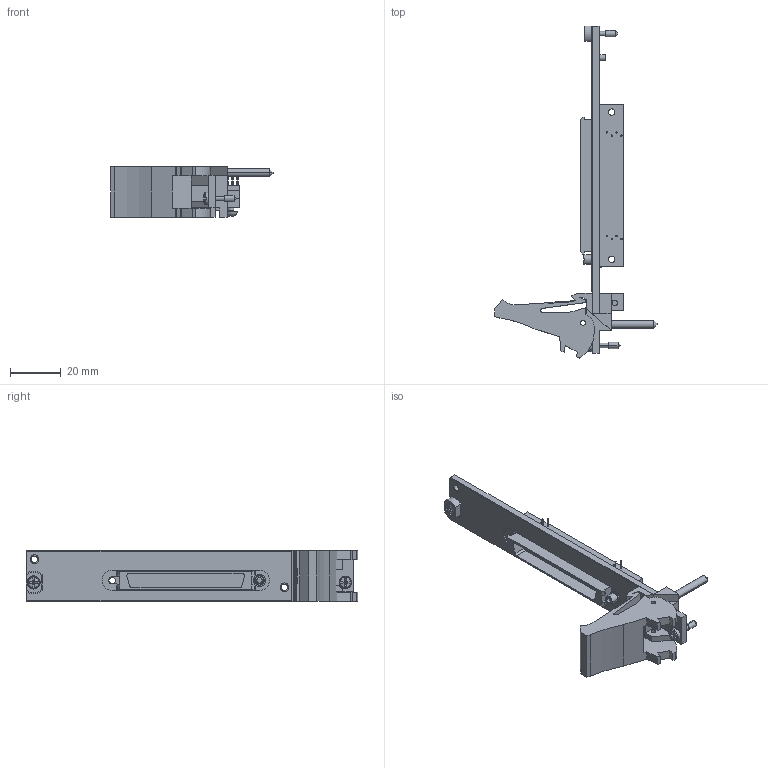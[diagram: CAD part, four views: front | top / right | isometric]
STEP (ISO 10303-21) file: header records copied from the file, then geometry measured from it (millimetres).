
FILE_DESCRIPTION((''),'2;1');
FILE_NAME('CU_PXI-2533','2009-09-08T',('jjorden'),(''),'PRO/ENGINEER BY PARAMETRIC TECHNOLOGY CORPORATION, 2006080','PRO/ENGINEER BY PARAMETRIC TECHNOLOGY CORPORATION, 2006080','');
FILE_SCHEMA(('CONFIG_CONTROL_DESIGN'));
Length unit declared in the file: inch
Products named in the file (1): CU_PXI-2533
Bounding box: 63.73 x 130.51 x 20.02 mm (x, y, z)
Volume: 16904.7 mm3; surface area: 15855.6 mm2
Topology: 2 solids, 2 shells, 451 faces, 1171 edges, 746 vertices
Faces by surface type: plane 301, cylinder 110, cone 20, sphere 8, bspline 6, torus 6
Entity records: 14178 total; most frequent: CARTESIAN_POINT 2884, DIRECTION 2332, ORIENTED_EDGE 2326, EDGE_CURVE 1163, VECTOR 814, LINE 814, VERTEX_POINT 765, AXIS2_PLACEMENT_3D 759
